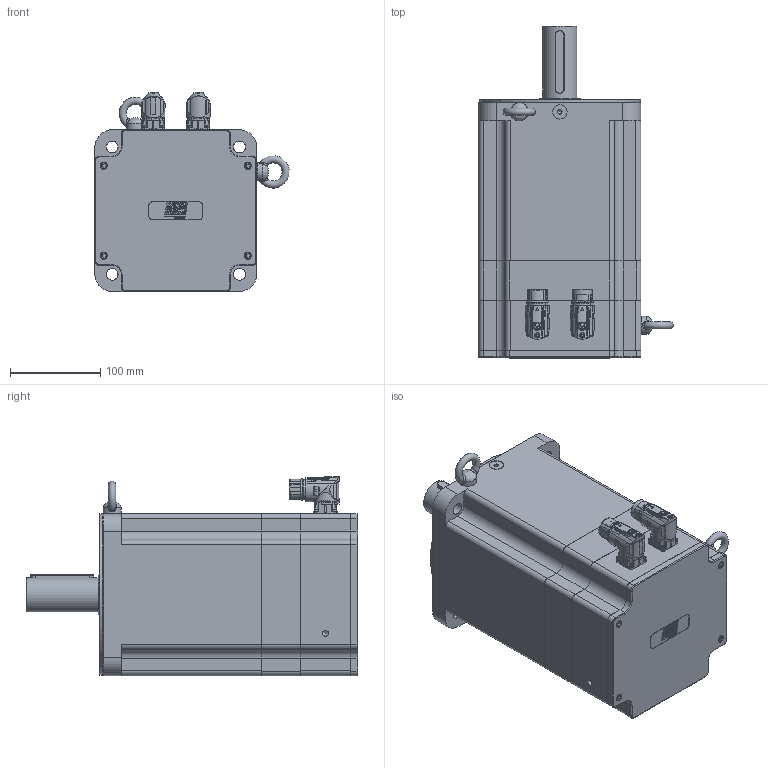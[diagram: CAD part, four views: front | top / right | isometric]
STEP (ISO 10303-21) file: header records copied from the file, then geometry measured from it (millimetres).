
FILE_DESCRIPTION(/* description */ ('Unknown'),/* implementation_level */ '2;1');
FILE_NAME(/* name */ 'TC4-180.7D.X X.X.3.XX.1.X.G2.00.00 Q0B808',/* time_stamp */ '2026-03-10T14:18:24+01:00',/* author */ ('Unknown'),/* organization */ ('Unknown'),/* preprocessor_version */ 'ST-DEVELOPER v19.4',/* originating_system */ 'Solid Edge',/* authorisation */ 'Unknown');
FILE_SCHEMA (('AUTOMOTIVE_DESIGN {1 0 10303 214 3 1 1}'));
Products named in the file (16): Q0B808 7D FRENO VUOTO; 005256003057; 003103040231; 007117000456; 003155002230; Coperchio campana TC4-180; 003003199971; 005113001040; 005119001104; 005911000185; 005911000479; 005321000010; 005911000180; 003251040631; Corpo TC4-180 7D; 007117000454
Assembly tree (33 placements, depth 2):
  Q0B808 7D FRENO VUOTO
    005256003057
    003103040231
    007117000456
    003155002230
    Coperchio campana TC4-180
    003003199971
    005113001040
    005119001104
    005911000185  x8
    005911000479  x8
    005321000010  x2
    005911000180  x4
    003251040631
    Corpo TC4-180 7D
    007117000454
Bounding box: 215.98 x 368.5 x 221.5 mm (x, y, z)
Volume: 3620004.5 mm3; surface area: 857662.3 mm2
Topology: 34 solids, 60 shells, 2598 faces, 6867 edges, 4474 vertices
Faces by surface type: plane 1072, cylinder 698, cone 333, bspline 290, torus 146, sphere 59
Full cylindrical faces by diameter (mm): 0.5 x1, 1 x21, 1.2 x17, 1.4 x4, 2 x4, 2.013 x16, 2.5 x8, 2.8 x4, 3 x12, 3.242 x12, 4 x5, 4.134 x16, 4.2 x8, 4.5 x10, 4.7 x8, 4.917 x8, 5 x8, 5.5 x10, 5.8 x1, 5.9 x2, 6.647 x14, 6.8 x1, 7 x6, 8 x8, 9 x4, 10 x5, 10.106 x2, 14 x4, 15.2 x1, 16 x1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
Entity records: 92346 total; most frequent: CARTESIAN_POINT 24105, ORIENTED_EDGE 10910, DIRECTION 10885, EDGE_CURVE 5663, AXIS2_PLACEMENT_3D 4208, VERTEX_POINT 3971, FACE_BOUND 3081, EDGE_LOOP 3047
